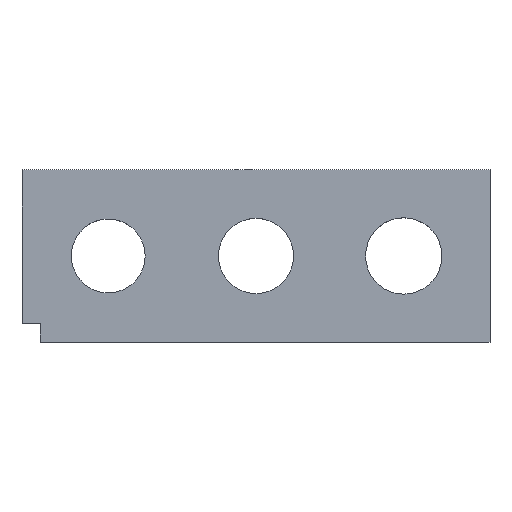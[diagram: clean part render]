
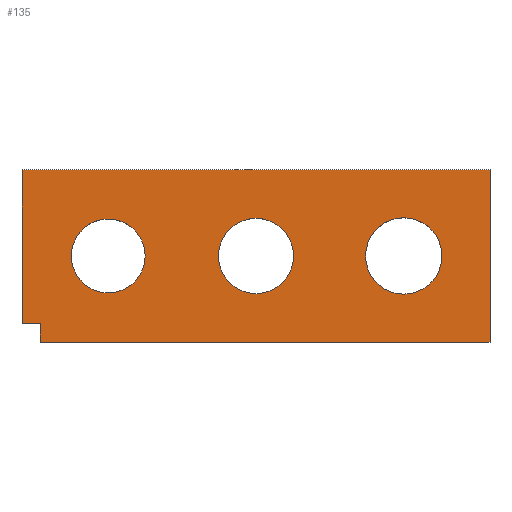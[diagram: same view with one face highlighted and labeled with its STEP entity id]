
A CAD part, top view. The second image highlights one B-rep face of the part: STEP entity #135.
In plain terms, the highlighted planar face has unit normal (0, 0, 1).
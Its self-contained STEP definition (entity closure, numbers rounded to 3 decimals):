
#21 = EDGE_CURVE('',#22,#24,#26,.T.);
#22 = VERTEX_POINT('',#23);
#23 = CARTESIAN_POINT('',(0.,3.,3.));
#24 = VERTEX_POINT('',#25);
#25 = CARTESIAN_POINT('',(0.,28.,3.));
#26 = SURFACE_CURVE('',#27,(#31,#43),.PCURVE_S1.);
#27 = LINE('',#28,#29);
#28 = CARTESIAN_POINT('',(0.,0.,3.));
#29 = VECTOR('',#30,1.);
#30 = DIRECTION('',(-0.,1.,0.));
#31 = PCURVE('',#32,#37);
#32 = PLANE('',#33);
#33 = AXIS2_PLACEMENT_3D('',#34,#35,#36);
#34 = CARTESIAN_POINT('',(0.,0.,0.));
#35 = DIRECTION('',(1.,0.,-0.));
#36 = DIRECTION('',(0.,0.,1.));
#37 = DEFINITIONAL_REPRESENTATION('',(#38),#42);
#38 = LINE('',#39,#40);
#39 = CARTESIAN_POINT('',(3.,0.));
#40 = VECTOR('',#41,1.);
#41 = DIRECTION('',(0.,-1.));
#42 = ( GEOMETRIC_REPRESENTATION_CONTEXT(2)
PARAMETRIC_REPRESENTATION_CONTEXT() REPRESENTATION_CONTEXT('2D SPACE',''
  ) );
#43 = PCURVE('',#44,#49);
#44 = PLANE('',#45);
#45 = AXIS2_PLACEMENT_3D('',#46,#47,#48);
#46 = CARTESIAN_POINT('',(0.,0.,3.));
#47 = DIRECTION('',(0.,0.,1.));
#48 = DIRECTION('',(1.,0.,-0.));
#49 = DEFINITIONAL_REPRESENTATION('',(#50),#54);
#50 = LINE('',#51,#52);
#51 = CARTESIAN_POINT('',(0.,0.));
#52 = VECTOR('',#53,1.);
#53 = DIRECTION('',(0.,1.));
#54 = ( GEOMETRIC_REPRESENTATION_CONTEXT(2)
PARAMETRIC_REPRESENTATION_CONTEXT() REPRESENTATION_CONTEXT('2D SPACE',''
  ) );
#71 = PLANE('',#72);
#72 = AXIS2_PLACEMENT_3D('',#73,#74,#75);
#73 = CARTESIAN_POINT('',(-1.,3.,-1.));
#74 = DIRECTION('',(-0.,1.,0.));
#75 = DIRECTION('',(0.,0.,1.));
#124 = PLANE('',#125);
#125 = AXIS2_PLACEMENT_3D('',#126,#127,#128);
#126 = CARTESIAN_POINT('',(0.,28.,0.));
#127 = DIRECTION('',(-0.,1.,0.));
#128 = DIRECTION('',(0.,0.,1.));
#135 = ADVANCED_FACE('',(#136,#263,#294,#325),#44,.T.);
#136 = FACE_BOUND('',#137,.T.);
#137 = EDGE_LOOP('',(#138,#139,#160,#186,#214,#242));
#138 = ORIENTED_EDGE('',*,*,#21,.F.);
#139 = ORIENTED_EDGE('',*,*,#140,.F.);
#140 = EDGE_CURVE('',#141,#22,#143,.T.);
#141 = VERTEX_POINT('',#142);
#142 = CARTESIAN_POINT('',(3.,3.,3.));
#143 = SURFACE_CURVE('',#144,(#148,#154),.PCURVE_S1.);
#144 = LINE('',#145,#146);
#145 = CARTESIAN_POINT('',(-0.5,3.,3.));
#146 = VECTOR('',#147,1.);
#147 = DIRECTION('',(-1.,-0.,0.));
#148 = PCURVE('',#44,#149);
#149 = DEFINITIONAL_REPRESENTATION('',(#150),#153);
#150 = B_SPLINE_CURVE_WITH_KNOTS('',1,(#151,#152),.UNSPECIFIED.,.F.,.F.,
  (2,2),(-3.5,-0.5),.PIECEWISE_BEZIER_KNOTS.);
#151 = CARTESIAN_POINT('',(3.,3.));
#152 = CARTESIAN_POINT('',(0.,3.));
#153 = ( GEOMETRIC_REPRESENTATION_CONTEXT(2)
PARAMETRIC_REPRESENTATION_CONTEXT() REPRESENTATION_CONTEXT('2D SPACE',''
  ) );
#154 = PCURVE('',#71,#155);
#155 = DEFINITIONAL_REPRESENTATION('',(#156),#159);
#156 = B_SPLINE_CURVE_WITH_KNOTS('',1,(#157,#158),.UNSPECIFIED.,.F.,.F.,
  (2,2),(-3.5,-0.5),.PIECEWISE_BEZIER_KNOTS.);
#157 = CARTESIAN_POINT('',(4.,4.));
#158 = CARTESIAN_POINT('',(4.,1.));
#159 = ( GEOMETRIC_REPRESENTATION_CONTEXT(2)
PARAMETRIC_REPRESENTATION_CONTEXT() REPRESENTATION_CONTEXT('2D SPACE',''
  ) );
#160 = ORIENTED_EDGE('',*,*,#161,.F.);
#161 = EDGE_CURVE('',#162,#141,#164,.T.);
#162 = VERTEX_POINT('',#163);
#163 = CARTESIAN_POINT('',(3.,0.,3.));
#164 = SURFACE_CURVE('',#165,(#169,#175),.PCURVE_S1.);
#165 = LINE('',#166,#167);
#166 = CARTESIAN_POINT('',(3.,-0.5,3.));
#167 = VECTOR('',#168,1.);
#168 = DIRECTION('',(-0.,1.,0.));
#169 = PCURVE('',#44,#170);
#170 = DEFINITIONAL_REPRESENTATION('',(#171),#174);
#171 = B_SPLINE_CURVE_WITH_KNOTS('',1,(#172,#173),.UNSPECIFIED.,.F.,.F.,
  (2,2),(0.5,3.5),.PIECEWISE_BEZIER_KNOTS.);
#172 = CARTESIAN_POINT('',(3.,0.));
#173 = CARTESIAN_POINT('',(3.,3.));
#174 = ( GEOMETRIC_REPRESENTATION_CONTEXT(2)
PARAMETRIC_REPRESENTATION_CONTEXT() REPRESENTATION_CONTEXT('2D SPACE',''
  ) );
#175 = PCURVE('',#176,#181);
#176 = PLANE('',#177);
#177 = AXIS2_PLACEMENT_3D('',#178,#179,#180);
#178 = CARTESIAN_POINT('',(3.,-1.,-1.));
#179 = DIRECTION('',(1.,0.,-0.));
#180 = DIRECTION('',(0.,0.,1.));
#181 = DEFINITIONAL_REPRESENTATION('',(#182),#185);
#182 = B_SPLINE_CURVE_WITH_KNOTS('',1,(#183,#184),.UNSPECIFIED.,.F.,.F.,
  (2,2),(0.5,3.5),.PIECEWISE_BEZIER_KNOTS.);
#183 = CARTESIAN_POINT('',(4.,-1.));
#184 = CARTESIAN_POINT('',(4.,-4.));
#185 = ( GEOMETRIC_REPRESENTATION_CONTEXT(2)
PARAMETRIC_REPRESENTATION_CONTEXT() REPRESENTATION_CONTEXT('2D SPACE',''
  ) );
#186 = ORIENTED_EDGE('',*,*,#187,.T.);
#187 = EDGE_CURVE('',#162,#188,#190,.T.);
#188 = VERTEX_POINT('',#189);
#189 = CARTESIAN_POINT('',(76.,0.,3.));
#190 = SURFACE_CURVE('',#191,(#195,#202),.PCURVE_S1.);
#191 = LINE('',#192,#193);
#192 = CARTESIAN_POINT('',(0.,0.,3.));
#193 = VECTOR('',#194,1.);
#194 = DIRECTION('',(1.,0.,-0.));
#195 = PCURVE('',#44,#196);
#196 = DEFINITIONAL_REPRESENTATION('',(#197),#201);
#197 = LINE('',#198,#199);
#198 = CARTESIAN_POINT('',(0.,0.));
#199 = VECTOR('',#200,1.);
#200 = DIRECTION('',(1.,0.));
#201 = ( GEOMETRIC_REPRESENTATION_CONTEXT(2)
PARAMETRIC_REPRESENTATION_CONTEXT() REPRESENTATION_CONTEXT('2D SPACE',''
  ) );
#202 = PCURVE('',#203,#208);
#203 = PLANE('',#204);
#204 = AXIS2_PLACEMENT_3D('',#205,#206,#207);
#205 = CARTESIAN_POINT('',(0.,0.,0.));
#206 = DIRECTION('',(-0.,1.,0.));
#207 = DIRECTION('',(0.,0.,1.));
#208 = DEFINITIONAL_REPRESENTATION('',(#209),#213);
#209 = LINE('',#210,#211);
#210 = CARTESIAN_POINT('',(3.,0.));
#211 = VECTOR('',#212,1.);
#212 = DIRECTION('',(0.,1.));
#213 = ( GEOMETRIC_REPRESENTATION_CONTEXT(2)
PARAMETRIC_REPRESENTATION_CONTEXT() REPRESENTATION_CONTEXT('2D SPACE',''
  ) );
#214 = ORIENTED_EDGE('',*,*,#215,.T.);
#215 = EDGE_CURVE('',#188,#216,#218,.T.);
#216 = VERTEX_POINT('',#217);
#217 = CARTESIAN_POINT('',(76.,28.,3.));
#218 = SURFACE_CURVE('',#219,(#223,#230),.PCURVE_S1.);
#219 = LINE('',#220,#221);
#220 = CARTESIAN_POINT('',(76.,0.,3.));
#221 = VECTOR('',#222,1.);
#222 = DIRECTION('',(-0.,1.,0.));
#223 = PCURVE('',#44,#224);
#224 = DEFINITIONAL_REPRESENTATION('',(#225),#229);
#225 = LINE('',#226,#227);
#226 = CARTESIAN_POINT('',(76.,0.));
#227 = VECTOR('',#228,1.);
#228 = DIRECTION('',(0.,1.));
#229 = ( GEOMETRIC_REPRESENTATION_CONTEXT(2)
PARAMETRIC_REPRESENTATION_CONTEXT() REPRESENTATION_CONTEXT('2D SPACE',''
  ) );
#230 = PCURVE('',#231,#236);
#231 = PLANE('',#232);
#232 = AXIS2_PLACEMENT_3D('',#233,#234,#235);
#233 = CARTESIAN_POINT('',(76.,0.,0.));
#234 = DIRECTION('',(1.,0.,-0.));
#235 = DIRECTION('',(0.,0.,1.));
#236 = DEFINITIONAL_REPRESENTATION('',(#237),#241);
#237 = LINE('',#238,#239);
#238 = CARTESIAN_POINT('',(3.,0.));
#239 = VECTOR('',#240,1.);
#240 = DIRECTION('',(0.,-1.));
#241 = ( GEOMETRIC_REPRESENTATION_CONTEXT(2)
PARAMETRIC_REPRESENTATION_CONTEXT() REPRESENTATION_CONTEXT('2D SPACE',''
  ) );
#242 = ORIENTED_EDGE('',*,*,#243,.F.);
#243 = EDGE_CURVE('',#24,#216,#244,.T.);
#244 = SURFACE_CURVE('',#245,(#249,#256),.PCURVE_S1.);
#245 = LINE('',#246,#247);
#246 = CARTESIAN_POINT('',(0.,28.,3.));
#247 = VECTOR('',#248,1.);
#248 = DIRECTION('',(1.,0.,-0.));
#249 = PCURVE('',#44,#250);
#250 = DEFINITIONAL_REPRESENTATION('',(#251),#255);
#251 = LINE('',#252,#253);
#252 = CARTESIAN_POINT('',(0.,28.));
#253 = VECTOR('',#254,1.);
#254 = DIRECTION('',(1.,0.));
#255 = ( GEOMETRIC_REPRESENTATION_CONTEXT(2)
PARAMETRIC_REPRESENTATION_CONTEXT() REPRESENTATION_CONTEXT('2D SPACE',''
  ) );
#256 = PCURVE('',#124,#257);
#257 = DEFINITIONAL_REPRESENTATION('',(#258),#262);
#258 = LINE('',#259,#260);
#259 = CARTESIAN_POINT('',(3.,0.));
#260 = VECTOR('',#261,1.);
#261 = DIRECTION('',(0.,1.));
#262 = ( GEOMETRIC_REPRESENTATION_CONTEXT(2)
PARAMETRIC_REPRESENTATION_CONTEXT() REPRESENTATION_CONTEXT('2D SPACE',''
  ) );
#263 = FACE_BOUND('',#264,.T.);
#264 = EDGE_LOOP('',(#265));
#265 = ORIENTED_EDGE('',*,*,#266,.F.);
#266 = EDGE_CURVE('',#267,#267,#269,.T.);
#267 = VERTEX_POINT('',#268);
#268 = CARTESIAN_POINT('',(20.,14.,3.));
#269 = SURFACE_CURVE('',#270,(#275,#282),.PCURVE_S1.);
#270 = CIRCLE('',#271,6.);
#271 = AXIS2_PLACEMENT_3D('',#272,#273,#274);
#272 = CARTESIAN_POINT('',(14.,14.,3.));
#273 = DIRECTION('',(0.,0.,1.));
#274 = DIRECTION('',(1.,0.,-0.));
#275 = PCURVE('',#44,#276);
#276 = DEFINITIONAL_REPRESENTATION('',(#277),#281);
#277 = CIRCLE('',#278,6.);
#278 = AXIS2_PLACEMENT_2D('',#279,#280);
#279 = CARTESIAN_POINT('',(14.,14.));
#280 = DIRECTION('',(1.,0.));
#281 = ( GEOMETRIC_REPRESENTATION_CONTEXT(2)
PARAMETRIC_REPRESENTATION_CONTEXT() REPRESENTATION_CONTEXT('2D SPACE',''
  ) );
#282 = PCURVE('',#283,#288);
#283 = CYLINDRICAL_SURFACE('',#284,6.);
#284 = AXIS2_PLACEMENT_3D('',#285,#286,#287);
#285 = CARTESIAN_POINT('',(14.,14.,-1.));
#286 = DIRECTION('',(0.,0.,1.));
#287 = DIRECTION('',(1.,0.,-0.));
#288 = DEFINITIONAL_REPRESENTATION('',(#289),#293);
#289 = LINE('',#290,#291);
#290 = CARTESIAN_POINT('',(0.,4.));
#291 = VECTOR('',#292,1.);
#292 = DIRECTION('',(1.,0.));
#293 = ( GEOMETRIC_REPRESENTATION_CONTEXT(2)
PARAMETRIC_REPRESENTATION_CONTEXT() REPRESENTATION_CONTEXT('2D SPACE',''
  ) );
#294 = FACE_BOUND('',#295,.T.);
#295 = EDGE_LOOP('',(#296));
#296 = ORIENTED_EDGE('',*,*,#297,.F.);
#297 = EDGE_CURVE('',#298,#298,#300,.T.);
#298 = VERTEX_POINT('',#299);
#299 = CARTESIAN_POINT('',(44.1,14.,3.));
#300 = SURFACE_CURVE('',#301,(#306,#313),.PCURVE_S1.);
#301 = CIRCLE('',#302,6.1);
#302 = AXIS2_PLACEMENT_3D('',#303,#304,#305);
#303 = CARTESIAN_POINT('',(38.,14.,3.));
#304 = DIRECTION('',(0.,0.,1.));
#305 = DIRECTION('',(1.,0.,-0.));
#306 = PCURVE('',#44,#307);
#307 = DEFINITIONAL_REPRESENTATION('',(#308),#312);
#308 = CIRCLE('',#309,6.1);
#309 = AXIS2_PLACEMENT_2D('',#310,#311);
#310 = CARTESIAN_POINT('',(38.,14.));
#311 = DIRECTION('',(1.,0.));
#312 = ( GEOMETRIC_REPRESENTATION_CONTEXT(2)
PARAMETRIC_REPRESENTATION_CONTEXT() REPRESENTATION_CONTEXT('2D SPACE',''
  ) );
#313 = PCURVE('',#314,#319);
#314 = CYLINDRICAL_SURFACE('',#315,6.1);
#315 = AXIS2_PLACEMENT_3D('',#316,#317,#318);
#316 = CARTESIAN_POINT('',(38.,14.,-1.));
#317 = DIRECTION('',(0.,0.,1.));
#318 = DIRECTION('',(1.,0.,-0.));
#319 = DEFINITIONAL_REPRESENTATION('',(#320),#324);
#320 = LINE('',#321,#322);
#321 = CARTESIAN_POINT('',(0.,4.));
#322 = VECTOR('',#323,1.);
#323 = DIRECTION('',(1.,0.));
#324 = ( GEOMETRIC_REPRESENTATION_CONTEXT(2)
PARAMETRIC_REPRESENTATION_CONTEXT() REPRESENTATION_CONTEXT('2D SPACE',''
  ) );
#325 = FACE_BOUND('',#326,.T.);
#326 = EDGE_LOOP('',(#327));
#327 = ORIENTED_EDGE('',*,*,#328,.F.);
#328 = EDGE_CURVE('',#329,#329,#331,.T.);
#329 = VERTEX_POINT('',#330);
#330 = CARTESIAN_POINT('',(68.2,14.,3.));
#331 = SURFACE_CURVE('',#332,(#337,#344),.PCURVE_S1.);
#332 = CIRCLE('',#333,6.2);
#333 = AXIS2_PLACEMENT_3D('',#334,#335,#336);
#334 = CARTESIAN_POINT('',(62.,14.,3.));
#335 = DIRECTION('',(0.,0.,1.));
#336 = DIRECTION('',(1.,0.,-0.));
#337 = PCURVE('',#44,#338);
#338 = DEFINITIONAL_REPRESENTATION('',(#339),#343);
#339 = CIRCLE('',#340,6.2);
#340 = AXIS2_PLACEMENT_2D('',#341,#342);
#341 = CARTESIAN_POINT('',(62.,14.));
#342 = DIRECTION('',(1.,0.));
#343 = ( GEOMETRIC_REPRESENTATION_CONTEXT(2)
PARAMETRIC_REPRESENTATION_CONTEXT() REPRESENTATION_CONTEXT('2D SPACE',''
  ) );
#344 = PCURVE('',#345,#350);
#345 = CYLINDRICAL_SURFACE('',#346,6.2);
#346 = AXIS2_PLACEMENT_3D('',#347,#348,#349);
#347 = CARTESIAN_POINT('',(62.,14.,-1.));
#348 = DIRECTION('',(0.,0.,1.));
#349 = DIRECTION('',(1.,0.,-0.));
#350 = DEFINITIONAL_REPRESENTATION('',(#351),#355);
#351 = LINE('',#352,#353);
#352 = CARTESIAN_POINT('',(0.,4.));
#353 = VECTOR('',#354,1.);
#354 = DIRECTION('',(1.,0.));
#355 = ( GEOMETRIC_REPRESENTATION_CONTEXT(2)
PARAMETRIC_REPRESENTATION_CONTEXT() REPRESENTATION_CONTEXT('2D SPACE',''
  ) );
